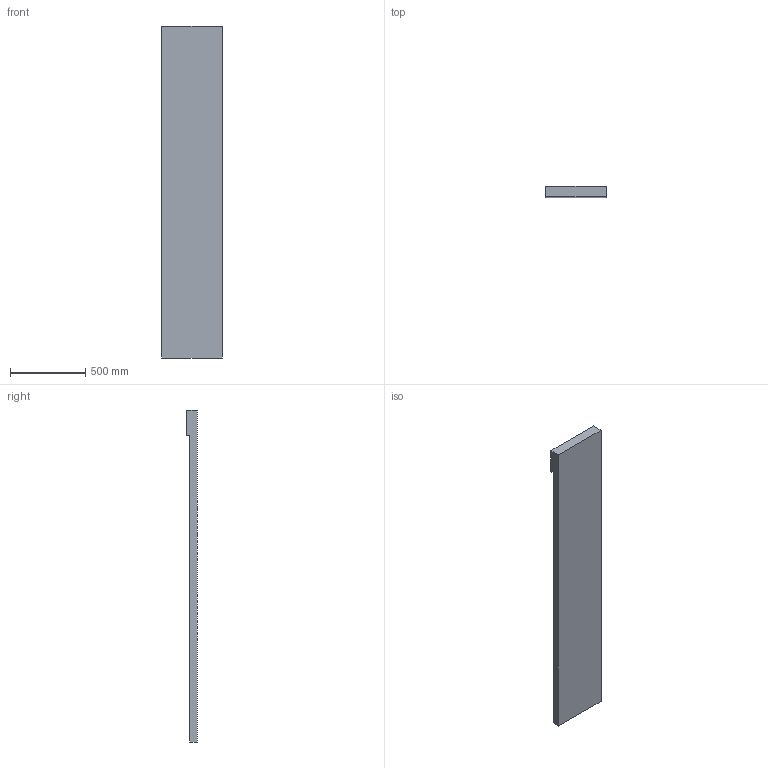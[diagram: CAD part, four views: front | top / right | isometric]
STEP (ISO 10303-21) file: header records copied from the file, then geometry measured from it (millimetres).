
FILE_DESCRIPTION(/* description */ (''),/* implementation_level */ '2;1');
FILE_NAME(/* name */ 'BASE.stp',/* time_stamp */ '2026-07-13T09:11:51+03:00',/* author */ ('USER'),/* organization */ (''),/* preprocessor_version */ 'ST-DEVELOPER v20',/* originating_system */ 'Autodesk Inventor 2025',/* authorisation */ '');
FILE_SCHEMA (('AUTOMOTIVE_DESIGN { 1 0 10303 214 3 1 1 }'));
Length unit declared in the file: millimetre
Products named in the file (1): BASE
Bounding box: 400 x 70 x 2200 mm (x, y, z)
Volume: 45341904.4 mm3; surface area: 2048831.9 mm2
Topology: 1 solids, 1 shells, 16 faces, 30 edges, 20 vertices
Faces by surface type: plane 12, cylinder 4
Full cylindrical faces by diameter (mm): 12 x4
Entity records: 443 total; most frequent: DIRECTION 72, CARTESIAN_POINT 67, ORIENTED_EDGE 60, EDGE_CURVE 30, AXIS2_PLACEMENT_3D 25, LINE 22, VECTOR 22, EDGE_LOOP 20
